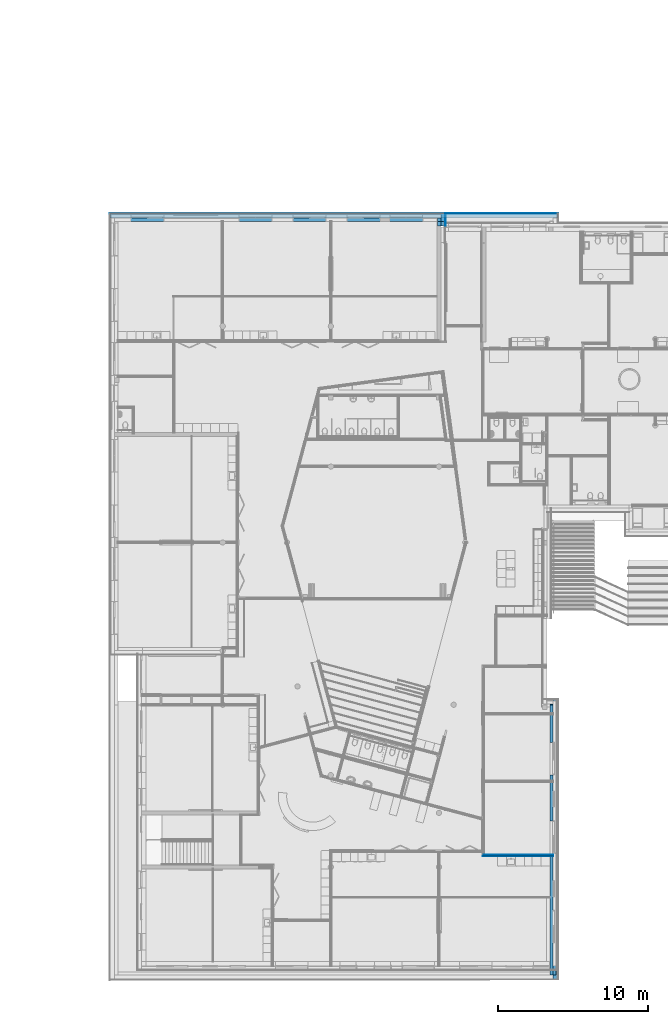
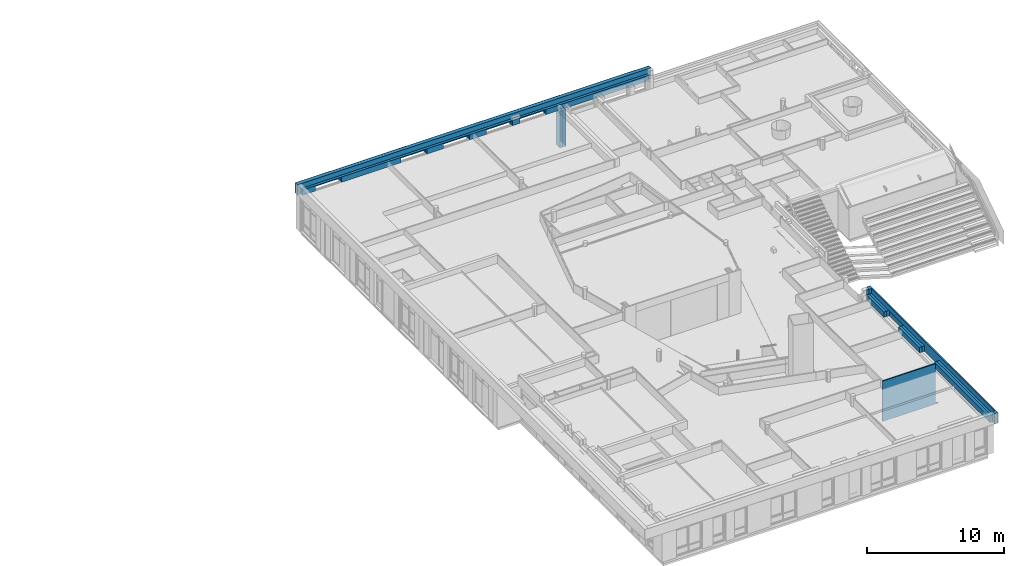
# One storey, part 66 of 167: 11 building element parts, 7 openings, 4 elements without a shape of their own.
"""IFC2X3 building model written with IfcOpenShell, lengths in millimetres."""

from ifc_helpers import new_model, entity, si_unit, converted_unit, derived_unit, money_unit, direction, frame, origin_with_axes, place, context, subcontext, project, spatial, faceted_brep, material, type_object, element, aggregate, save


model = new_model("IFC2X3")

# Units and contexts
model_context = context("Model", 3, precision=0.01, world=origin_with_axes(), true_north=direction((0.0, 1.0)))
plan_context = context("Plan", 3, precision=0.01, world=origin_with_axes(), true_north=direction((0.0, 1.0)))
body_context = subcontext(model_context, "Body", "Model", "MODEL_VIEW")
ifc_project = project(units=[si_unit("LENGTHUNIT", "METRE", prefix="MILLI"), si_unit("AREAUNIT", "SQUARE_METRE"), si_unit("VOLUMEUNIT", "CUBIC_METRE"), converted_unit("PLANEANGLEUNIT", "DEGREE", entity("IfcPlaneAngleMeasure", 0.0174532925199), si_unit("PLANEANGLEUNIT", "RADIAN"), dimensions=[0, 0, 0, 0, 0, 0, 0]), si_unit("SOLIDANGLEUNIT", "STERADIAN"), money_unit("EUR"), converted_unit("TIMEUNIT", "Year", entity("IfcTimeMeasure", 31556926.0), si_unit("TIMEUNIT", "SECOND"), dimensions=[0, 0, 1, 0, 0, 0, 0]), si_unit("MASSUNIT", "GRAM", prefix="KILO"), si_unit("THERMODYNAMICTEMPERATUREUNIT", "DEGREE_CELSIUS"), si_unit("LUMINOUSINTENSITYUNIT", "LUMEN"), si_unit("ENERGYUNIT", "JOULE", prefix="MEGA"), derived_unit("THERMALCONDUCTANCEUNIT", [(si_unit("POWERUNIT", "WATT"), 1), (si_unit("LENGTHUNIT", "METRE"), -1), (si_unit("THERMODYNAMICTEMPERATUREUNIT", "KELVIN"), -1)]), derived_unit("SPECIFICHEATCAPACITYUNIT", [(si_unit("ENERGYUNIT", "JOULE"), 1), (si_unit("MASSUNIT", "GRAM", prefix="KILO"), -1), (si_unit("THERMODYNAMICTEMPERATUREUNIT", "KELVIN"), -1)]), derived_unit("MASSDENSITYUNIT", [(si_unit("MASSUNIT", "GRAM", prefix="KILO"), 1), (si_unit("VOLUMEUNIT", "CUBIC_METRE"), -1)])], contexts=[model_context, plan_context])

# Site, building, storey
site_placement = place(None, origin_with_axes())
site = spatial("IfcSite", under=ifc_project, at=site_placement, Name="Site", CompositionType="ELEMENT")
building_placement = place(site_placement, origin_with_axes())
building = spatial("IfcBuilding", under=site, at=building_placement, Name="Naam gebouw", CompositionType="ELEMENT")
storey_placement = place(building_placement, origin_with_axes())
storey = spatial("IfcBuildingStorey", under=building, at=storey_placement, Name="Begane grond", CompositionType="ELEMENT", Elevation=0.0)

# Wall, building element parts
wall_type_1 = type_object("IfcWallType", Name="_TenW_21_E-BOARD_V1_standaard 538", PredefinedType="NOTDEFINED")
wall_1_placement = place(storey_placement, frame((21725.0, 49882.6405143, -100.0), z_axis=(0.0, 0.0, 1.0), x_axis=(0.0, 1.0, 0.0)))
wall_1 = element("IfcWall", 1, at=wall_1_placement, inside=storey, type_object=wall_type_1, Name="21_Wand_Wand-x")
ifc_material_1 = material(Name="Steen - Kalkzandsteen C")
building_element_part_1_placement = place(wall_1_placement, origin_with_axes())
building_element_part_1 = element("IfcBuildingElementPart", 2, at=building_element_part_1_placement, material=ifc_material_1, Name="Steen - Kalkzandsteen C", context=body_context, shape_type="Brep", body=[
    faceted_brep([(517.359485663, 125.0, 30.0), (517.359485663, 214.0, 30.0), (517.359485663, 214.0, 3150.0), (517.359485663, 0.0, 3150.0), (517.359485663, 0.0, 0.0), (517.359485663, 125.0, 0.0), (0.0, 125.0, 30.0), (0.0, 214.0, 30.0), (0.0, 214.0, 3272.0), (303.359485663, 214.0, 3272.0), (303.359485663, 214.0, 3150.0), (303.359485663, 0.0, 3150.0), (303.359485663, 0.0, 3272.0), (0.0, 0.0, 3272.0), (0.0, 0.0, 0.0), (0.0, 125.0, 0.0)], [[[0, 1, 2, 3, 4, 5]], [[1, 0, 6, 7]], [[1, 7, 8, 9, 10, 2]], [[10, 11, 3, 2]], [[3, 11, 12, 13, 14, 4]], [[15, 5, 4, 14]], [[0, 5, 15, 6]], [[6, 15, 14, 13, 8, 7]], [[13, 12, 9, 8]], [[10, 9, 12, 11]]]),
])
ifc_material_2 = material(Name="Isolatie - Steenwol zacht")
building_element_part_2_placement = place(wall_1_placement, origin_with_axes())
building_element_part_2 = element("IfcBuildingElementPart", 3, at=building_element_part_2_placement, material=ifc_material_2, Name="Isolatie - Steenwol zacht", context=body_context, shape_type="Brep", body=[
    faceted_brep([(781.359485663, -304.0, 3150.0), (781.359485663, 0.0, 3150.0), (303.359485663, 0.0, 3150.0), (303.359485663, -304.0, 3150.0), (781.359485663, 0.0, 0.0), (781.359485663, -304.0, 0.0), (303.359485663, 0.0, 3272.0), (0.0, 0.0, 0.0), (0.0, 0.0, 3272.0), (303.359485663, -304.0, 3272.0), (0.0, -304.0, 3272.0), (0.0, -304.0, 0.0)], [[[0, 1, 2, 3]], [[4, 1, 0, 5]], [[6, 2, 1, 4, 7, 8]], [[2, 6, 9, 3]], [[0, 3, 9, 10, 11, 5]], [[7, 4, 5, 11]], [[11, 10, 8, 7]], [[10, 9, 6, 8]]]),
])
ifc_material_3 = material(Name="_TenW_21_Steen - Baksteen")
building_element_part_3_placement = place(wall_1_placement, origin_with_axes())
building_element_part_3 = element("IfcBuildingElementPart", 4, at=building_element_part_3_placement, material=ifc_material_3, Name="_TenW_21_Steen - Baksteen", context=body_context, shape_type="Brep", body=[
    faceted_brep([(801.359485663, -324.0, 3150.0), (801.359485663, -304.0, 3150.0), (303.359485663, -304.0, 3150.0), (303.359485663, -324.0, 3150.0), (801.359485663, -304.0, 0.0), (801.359485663, -324.0, 0.0), (303.359485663, -304.0, 3272.0), (0.0, -304.0, 0.0), (0.0, -304.0, 3272.0), (303.359485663, -324.0, 3272.0), (0.0, -324.0, 3272.0), (0.0, -324.0, 0.0)], [[[0, 1, 2, 3]], [[4, 1, 0, 5]], [[6, 2, 1, 4, 7, 8]], [[2, 6, 9, 3]], [[0, 3, 9, 10, 11, 5]], [[11, 7, 4, 5]], [[11, 10, 8, 7]], [[10, 9, 6, 8]]]),
])
aggregate(wall_1, [building_element_part_1, building_element_part_2, building_element_part_3])

wall_type_2 = type_object("IfcWallType", Name="_TenW_22_Metalstud 100 enkel gipsvezelplaat 100", PredefinedType="NOTDEFINED")
wall_2_placement = place(storey_placement, frame((29200.0, 7950.0, -100.0), z_axis=(0.0, 0.0, 1.0), x_axis=(-1.0, 0.0, 0.0)))
wall_2 = element("IfcWall", 5, at=wall_2_placement, inside=storey, type_object=wall_type_2, Name="22_Wand_Wand-x")
ifc_material_4 = material(Name="Gipsplaat watervast")
building_element_part_4_placement = place(wall_2_placement, origin_with_axes())
building_element_part_4 = element("IfcBuildingElementPart", 6, at=building_element_part_4_placement, material=ifc_material_4, Name="Gipsplaat watervast", context=body_context, shape_type="Brep", body=[
    faceted_brep([(0.0, 50.0, 30.0), (0.0, 37.5, 30.0), (0.0, 37.5, 100.0), (0.0, 50.0, 100.0), (4700.0, 37.5, 30.0), (4700.0, 50.0, 30.0), (4700.0, 37.5, 3629.99999995), (214.0, 37.5, 3630.0), (214.0, 37.5, 100.0), (214.0, 50.0, 100.0), (214.0, 50.0, 3630.0), (4700.0, 50.0, 3629.99999995)], [[[0, 1, 2, 3]], [[4, 1, 0, 5]], [[1, 4, 6, 7, 8, 2]], [[9, 3, 2, 8]], [[5, 0, 3, 9, 10, 11]], [[4, 5, 11, 6]], [[11, 10, 7, 6]], [[8, 7, 10, 9]]]),
])
building_element_part_5_placement = place(wall_2_placement, origin_with_axes())
building_element_part_5 = element("IfcBuildingElementPart", 7, at=building_element_part_5_placement, material=ifc_material_2, Name="Isolatie - Steenwol zacht", context=body_context, shape_type="Brep", body=[
    faceted_brep([(0.0, 37.5, 30.0), (0.0, -37.5, 30.0), (0.0, -37.5, 100.0), (0.0, 37.5, 100.0), (4687.5, -37.5, 30.0), (4687.5, 37.5, 30.0), (4687.5, -37.5, 3629.99999995), (214.0, -37.5, 3630.0), (214.0, -37.5, 100.0), (214.0, 37.5, 100.0), (214.0, 37.5, 3630.0), (4687.5, 37.5, 3629.99999995)], [[[0, 1, 2, 3]], [[4, 1, 0, 5]], [[1, 4, 6, 7, 8, 2]], [[9, 3, 2, 8]], [[5, 0, 3, 9, 10, 11]], [[4, 5, 11, 6]], [[11, 10, 7, 6]], [[8, 7, 10, 9]]]),
])
building_element_part_6_placement = place(wall_2_placement, origin_with_axes())
building_element_part_6 = element("IfcBuildingElementPart", 8, at=building_element_part_6_placement, material=ifc_material_4, Name="Gipsplaat watervast", context=body_context, shape_type="Brep", body=[
    faceted_brep([(0.0, -37.5, 30.0), (0.0, -50.0, 30.0), (0.0, -50.0, 100.0), (0.0, -37.5, 100.0), (4612.5, -50.0, 30.0), (4612.5, -37.5, 30.0), (4612.5, -50.0, 3629.99999991), (214.0, -50.0, 3630.0), (214.0, -50.0, 100.0), (214.0, -37.5, 100.0), (214.0, -37.5, 3630.0), (4612.5, -37.5, 3629.99999991)], [[[0, 1, 2, 3]], [[4, 1, 0, 5]], [[1, 4, 6, 7, 8, 2]], [[9, 3, 2, 8]], [[5, 0, 3, 9, 10, 11]], [[4, 5, 11, 6]], [[11, 10, 7, 6]], [[8, 7, 10, 9]]]),
])
aggregate(wall_2, [building_element_part_4, building_element_part_5, building_element_part_6])

# Wall, openings, building element parts
wall_3_placement = place(storey_placement, frame((29200.0, 0.0, 3050.0), z_axis=(0.0, 0.0, 1.0), x_axis=(0.0, 1.0, 0.0)))
wall_3 = element("IfcWall", 9, at=wall_3_placement, inside=storey, type_object=wall_type_1, Name="21_Wand_Wand-x")
opening_1_placement = place(wall_3_placement, frame((0.0, 29200.0, -3050.0), z_axis=(0.0, 0.0, 1.0), x_axis=(0.0, -1.0, 0.0)))
element("IfcOpeningElement", 10, at=opening_1_placement, cuts=wall_3, Name="_Lege opening_Doorvoer-x", context=body_context, shape_type="Brep", body=[
    faceted_brep([(29400.0, 8111.53471311, 3050.0), (29400.0, 8111.53471311, 3530.0), (28986.0, 8111.53471311, 3530.0), (28986.0, 8111.53471311, 3050.0), (29400.0, 10271.4347131, 3050.0), (29400.0, 10271.4347131, 3530.0), (28986.0, 10271.4347131, 3530.0), (28986.0, 10271.4347131, 3050.0)], [[[0, 1, 2, 3]], [[0, 4, 5, 1]], [[1, 5, 6, 2]], [[3, 2, 6, 7]], [[4, 0, 3, 7]], [[5, 4, 7, 6]]]),
])
opening_2_placement = place(wall_3_placement, frame((0.0, 29200.0, -3050.0), z_axis=(0.0, 0.0, 1.0), x_axis=(0.0, -1.0, 0.0)))
element("IfcOpeningElement", 11, at=opening_2_placement, cuts=wall_3, Name="_Lege opening_Doorvoer-x", context=body_context, shape_type="Brep", body=[
    faceted_brep([(29456.0, 13320.0149885, 3050.0), (29456.0, 13320.0149885, 3530.0), (28986.0, 13320.0149885, 3530.0), (28986.0, 13320.0149885, 3050.0), (29456.0, 15479.9149885, 3050.0), (29456.0, 15479.9149885, 3530.0), (28986.0, 15479.9149885, 3530.0), (28986.0, 15479.9149885, 3050.0)], [[[0, 1, 2, 3]], [[0, 4, 5, 1]], [[1, 5, 6, 2]], [[3, 2, 6, 7]], [[4, 0, 3, 7]], [[5, 4, 7, 6]]]),
])
building_element_part_7_placement = place(wall_3_placement, origin_with_axes())
building_element_part_7 = element("IfcBuildingElementPart", 12, at=building_element_part_7_placement, material=ifc_material_1, Name="Steen - Kalkzandsteen C", context=body_context, shape_type="Brep", body=[
    faceted_brep([(8081.43471311, 0.0, 0.0), (8081.43471311, 0.0, 10.0), (8111.53471311, 0.0, 10.0), (8111.53471311, 0.0, 480.0), (0.0, 0.0, 480.0), (0.0, 0.0, 0.0), (8081.43471311, 196.0, 0.0), (8081.43471311, 196.0, 10.0), (8111.53471311, 196.0, 10.0), (8111.53471311, 196.0, 0.0), (8111.53471311, 214.0, 0.0), (8111.53471311, 214.0, 480.0), (0.0, 214.0, 480.0), (0.0, 214.0, 0.0)], [[[0, 1, 2, 3, 4, 5]], [[1, 0, 6, 7]], [[8, 2, 1, 7]], [[8, 9, 10, 11, 3, 2]], [[4, 3, 11, 12]], [[4, 12, 13, 5]], [[6, 0, 5, 13, 10, 9]], [[9, 8, 7, 6]], [[12, 11, 10, 13]]]),
    faceted_brep([(13289.9048508, 0.0, 0.0), (13289.9048508, 0.0, 10.0), (13320.0149885, 0.0, 10.0), (13320.0149885, 0.0, 480.0), (10271.4347131, 0.0, 480.0), (10271.4347131, 0.0, 0.0), (13289.9048508, 196.0, 0.0), (13289.9048508, 196.0, 10.0), (13320.0149885, 196.0, 10.0), (13320.0149885, 196.0, 0.0), (13320.0149885, 214.0, 0.0), (13320.0149885, 214.0, 480.0), (10271.4347131, 214.0, 480.0), (10271.4347131, 214.0, 0.0)], [[[0, 1, 2, 3, 4, 5]], [[1, 0, 6, 7]], [[8, 2, 1, 7]], [[8, 9, 10, 11, 3, 2]], [[4, 3, 11, 12]], [[4, 12, 13, 5]], [[6, 0, 5, 13, 10, 9]], [[9, 8, 7, 6]], [[12, 11, 10, 13]]]),
    faceted_brep([(18000.0, 214.0, 910.0), (18000.0, 214.0, 480.0), (18000.0, 0.0, 480.0), (18000.0, 0.0, 910.0), (18050.0, 214.0, 910.0), (18050.0, 214.0, 0.0), (15479.9149885, 214.0, 0.0), (15479.9149885, 214.0, 480.0), (15479.9149885, 0.0, 480.0), (15479.9149885, 0.0, 0.0), (18050.0, 0.0, 0.0), (18050.0, 0.0, 910.0)], [[[0, 1, 2, 3]], [[1, 0, 4, 5, 6, 7]], [[8, 2, 1, 7]], [[2, 8, 9, 10, 11, 3]], [[0, 3, 11, 4]], [[4, 11, 10, 5]], [[5, 10, 9, 6]], [[8, 7, 6, 9]]]),
])
building_element_part_8_placement = place(wall_3_placement, origin_with_axes())
building_element_part_8 = element("IfcBuildingElementPart", 13, at=building_element_part_8_placement, material=ifc_material_2, Name="Isolatie - Steenwol zacht", context=body_context, shape_type="Brep", body=[
    faceted_brep([(8111.53471311, -3.66471820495, 10.0), (8111.53471311, 0.0, 10.0), (8111.53471311, 0.0, 480.0), (8111.53471311, -200.0, 480.0), (8111.53471311, -200.0, 0.0), (8111.53471311, -3.66471820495, 0.0), (8111.53471311, -16.0, 80.0), (8111.53471311, -176.0, 80.0), (8111.53471311, -176.0, 90.0), (8111.53471311, -16.0, 90.0), (8081.43471311, -3.66471820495, 10.0), (8081.43471311, 0.0, 10.0), (8081.43471311, 0.0, 0.0), (-304.0, 0.0, 0.0), (-304.0, 0.0, 910.0), (0.0, 0.0, 910.0), (0.0, 0.0, 480.0), (0.0, -200.0, 480.0), (10271.4347131, -200.0, 480.0), (10271.4347131, -200.0, 0.0), (8081.43471311, -3.66471820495, 0.0), (10271.4347131, 0.0, 0.0), (13289.9048508, 0.0, 0.0), (13289.9048508, -3.66471820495, 0.0), (13320.0149885, -3.66471820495, 0.0), (13320.0149885, -256.0, 0.0), (15479.9149885, -256.0, 0.0), (15479.9149885, 0.0, 0.0), (18354.0, 0.0, 0.0), (18354.0, -304.0, 0.0), (-304.0, -304.0, 0.0), (8081.43471311, -16.0, 80.0), (8081.43471311, -176.0, 80.0), (8081.43471311, -176.0, 90.0), (8081.43471311, -16.0, 90.0), (-304.0, -304.0, 910.0), (0.0, -200.0, 910.0), (18354.0, -304.0, 910.0), (18354.0, 0.0, 910.0), (18000.0, 0.0, 910.0), (18000.0, -200.0, 910.0), (18000.0, -200.0, 480.0), (15479.9149885, -200.0, 480.0), (13320.0149885, -200.0, 480.0), (10271.4347131, 0.0, 480.0), (13289.9048508, 0.0, 10.0), (13320.0149885, 0.0, 480.0), (13320.0149885, 0.0, 10.0), (13289.9048508, -3.66471820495, 10.0), (13320.0149885, -3.66471820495, 10.0), (13320.0149885, -256.0, 480.0), (13320.0149885, -16.0, 80.0), (13320.0149885, -176.0, 80.0), (13320.0149885, -176.0, 90.0), (13320.0149885, -16.0, 90.0), (15479.9149885, -256.0, 480.0), (15479.9149885, 0.0, 480.0), (18000.0, 0.0, 480.0), (13289.9048508, -16.0, 80.0), (13289.9048508, -176.0, 80.0), (13289.9048508, -176.0, 90.0), (13289.9048508, -16.0, 90.0)], [[[0, 1, 2, 3, 4, 5], [6, 7, 8, 9]], [[1, 0, 10, 11]], [[11, 12, 13, 14, 15, 16, 2, 1]], [[3, 2, 16, 17]], [[3, 18, 19, 4]], [[20, 5, 4, 19, 21, 22, 23, 24, 25, 26, 27, 28, 29, 30, 13, 12]], [[0, 5, 20, 10]], [[7, 6, 31, 32]], [[8, 7, 32, 33]], [[9, 8, 33, 34]], [[6, 9, 34, 31]], [[20, 12, 11, 10]], [[14, 13, 30, 35]], [[36, 15, 14, 35, 37, 38, 39, 40]], [[17, 16, 15, 36]], [[40, 41, 42, 43, 18, 3, 17, 36]], [[18, 44, 21, 19]], [[45, 22, 21, 44, 46, 47]], [[23, 22, 45, 48]], [[49, 24, 23, 48]], [[49, 47, 46, 43, 50, 25, 24], [51, 52, 53, 54]], [[50, 55, 26, 25]], [[42, 56, 27, 26, 55]], [[57, 39, 38, 28, 27, 56]], [[37, 29, 28, 38]], [[30, 29, 37, 35]], [[31, 34, 33, 32]], [[39, 57, 41, 40]], [[56, 42, 41, 57]], [[43, 42, 55, 50]], [[43, 46, 44, 18]], [[47, 49, 48, 45]], [[52, 51, 58, 59]], [[53, 52, 59, 60]], [[54, 53, 60, 61]], [[51, 54, 61, 58]], [[58, 61, 60, 59]]]),
])
aggregate(wall_3, [building_element_part_7, building_element_part_8])

wall_4_placement = place(storey_placement, frame((29200.0, 50400.0, 3050.0), z_axis=(0.0, 0.0, 1.0), x_axis=(-1.0, 0.0, 0.0)))
wall_4 = element("IfcWall", 14, at=wall_4_placement, inside=storey, type_object=wall_type_1, Name="21_Wand_Wand-x")
opening_3_placement = place(wall_4_placement, frame((29200.0, 50400.0, -3050.0), z_axis=(0.0, 0.0, 1.0), x_axis=(-1.0, 0.0, 0.0)))
element("IfcOpeningElement", 15, at=opening_3_placement, cuts=wall_4, Name="_Lege opening_Doorvoer-x", context=body_context, shape_type="Brep", body=[
    faceted_brep([(3276.46405593, 50674.0, 3046.32237764), (3276.46405593, 50674.0, 3506.32237764), (3276.46405593, 49648.0, 3506.32237764), (3276.46405593, 49648.0, 3046.32237764), (1086.46405593, 50674.0, 3046.32237764), (1086.46405593, 50674.0, 3506.32237764), (1086.46405593, 49648.0, 3506.32237764), (1086.46405593, 49648.0, 3046.32237764)], [[[0, 1, 2, 3]], [[0, 4, 5, 1]], [[1, 5, 6, 2]], [[3, 2, 6, 7]], [[4, 0, 3, 7]], [[5, 4, 7, 6]]]),
])
opening_4_placement = place(wall_4_placement, frame((29200.0, 50400.0, -3050.0), z_axis=(0.0, 0.0, 1.0), x_axis=(-1.0, 0.0, 0.0)))
element("IfcOpeningElement", 16, at=opening_4_placement, cuts=wall_4, Name="_Lege opening_Doorvoer-x", context=body_context, shape_type="Brep", body=[
    faceted_brep([(10477.0640559, 50674.0, 3046.32237764), (10477.0640559, 50674.0, 3506.32237764), (10477.0640559, 49648.0, 3506.32237764), (10477.0640559, 49648.0, 3046.32237764), (8287.06405593, 50674.0, 3046.32237764), (8287.06405593, 50674.0, 3506.32237764), (8287.06405593, 49648.0, 3506.32237764), (8287.06405593, 49648.0, 3046.32237764)], [[[0, 1, 2, 3]], [[0, 4, 5, 1]], [[1, 5, 6, 2]], [[3, 2, 6, 7]], [[4, 0, 3, 7]], [[5, 4, 7, 6]]]),
])
opening_5_placement = place(wall_4_placement, frame((29200.0, 50400.0, -3050.0), z_axis=(0.0, 0.0, 1.0), x_axis=(-1.0, 0.0, 0.0)))
element("IfcOpeningElement", 17, at=opening_5_placement, cuts=wall_4, Name="_Lege opening_Doorvoer-x", context=body_context, shape_type="Brep", body=[
    faceted_brep([(14077.3640559, 50674.0, 3046.32237764), (14077.3640559, 50674.0, 3506.32237764), (14077.3640559, 49648.0, 3506.32237764), (14077.3640559, 49648.0, 3046.32237764), (11887.3640559, 50674.0, 3046.32237764), (11887.3640559, 50674.0, 3506.32237764), (11887.3640559, 49648.0, 3506.32237764), (11887.3640559, 49648.0, 3046.32237764)], [[[0, 1, 2, 3]], [[0, 4, 5, 1]], [[1, 5, 6, 2]], [[3, 2, 6, 7]], [[4, 0, 3, 7]], [[5, 4, 7, 6]]]),
])
opening_6_placement = place(wall_4_placement, frame((29200.0, 50400.0, -3050.0), z_axis=(0.0, 0.0, 1.0), x_axis=(-1.0, 0.0, 0.0)))
element("IfcOpeningElement", 18, at=opening_6_placement, cuts=wall_4, Name="_Lege opening_Doorvoer-x", context=body_context, shape_type="Brep", body=[
    faceted_brep([(17677.6640559, 50674.0, 3046.32237764), (17677.6640559, 50674.0, 3506.32237764), (17677.6640559, 49648.0, 3506.32237764), (17677.6640559, 49648.0, 3046.32237764), (15487.6640559, 50674.0, 3046.32237764), (15487.6640559, 50674.0, 3506.32237764), (15487.6640559, 49648.0, 3506.32237764), (15487.6640559, 49648.0, 3046.32237764)], [[[0, 1, 2, 3]], [[0, 4, 5, 1]], [[1, 5, 6, 2]], [[3, 2, 6, 7]], [[4, 0, 3, 7]], [[5, 4, 7, 6]]]),
])
opening_7_placement = place(wall_4_placement, frame((29200.0, 50400.0, -3050.0), z_axis=(0.0, 0.0, 1.0), x_axis=(-1.0, 0.0, 0.0)))
element("IfcOpeningElement", 19, at=opening_7_placement, cuts=wall_4, Name="_Lege opening_Doorvoer-x", context=body_context, shape_type="Brep", body=[
    faceted_brep([(20514.2640559, 50674.0, 3046.32237764), (20514.2640559, 50674.0, 3506.32237764), (20514.2640559, 49648.0, 3506.32237764), (20514.2640559, 49648.0, 3046.32237764), (18324.2640559, 50674.0, 3046.32237764), (18324.2640559, 50674.0, 3506.32237764), (18324.2640559, 49648.0, 3506.32237764), (18324.2640559, 49648.0, 3046.32237764)], [[[0, 1, 2, 3]], [[0, 4, 5, 1]], [[1, 5, 6, 2]], [[3, 2, 6, 7]], [[4, 0, 3, 7]], [[5, 4, 7, 6]]]),
])
building_element_part_9_placement = place(wall_4_placement, origin_with_axes())
building_element_part_9 = element("IfcBuildingElementPart", 20, at=building_element_part_9_placement, material=ifc_material_1, Name="Steen - Kalkzandsteen C", context=body_context, shape_type="Brep", body=[
    faceted_brep([(29200.0, 0.0, 480.0), (0.0, 0.0, 480.0), (0.0, 0.0, 0.0), (8685.73594407, 0.0, 0.0), (8685.73594407, 0.0, 456.322377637), (9025.42131354, 0.0, 456.322377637), (9025.42131354, 0.0, 460.0), (9030.42131354, 0.0, 460.0), (9030.42131354, 0.0, 456.322377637), (10525.4213135, 0.0, 456.322377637), (10525.4213135, 0.0, 460.0), (10530.4213135, 0.0, 460.0), (10530.4213135, 0.0, 456.322377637), (10875.7359441, 0.0, 456.322377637), (10875.7359441, 0.0, 0.0), (11522.3359441, 0.0, 0.0), (11522.3359441, 0.0, 456.322377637), (11862.0213135, 0.0, 456.322377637), (11862.0213135, 0.0, 460.0), (11867.0213135, 0.0, 460.0), (11867.0213135, 0.0, 456.322377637), (13362.0213135, 0.0, 456.322377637), (13362.0213135, 0.0, 460.0), (13367.0213135, 0.0, 460.0), (13367.0213135, 0.0, 456.322377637), (13712.3359441, 0.0, 456.322377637), (13712.3359441, 0.0, 0.0), (15122.6359441, 0.0, 0.0), (15122.6359441, 0.0, 456.322377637), (15462.3213135, 0.0, 456.322377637), (15462.3213135, 0.0, 460.0), (15467.3213135, 0.0, 460.0), (15467.3213135, 0.0, 456.322377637), (16962.3213135, 0.0, 456.322377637), (16962.3213135, 0.0, 460.0), (16967.3213135, 0.0, 460.0), (16967.3213135, 0.0, 456.322377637), (17312.6359441, 0.0, 456.322377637), (17312.6359441, 0.0, 0.0), (18722.9359441, 0.0, 0.0), (18722.9359441, 0.0, 456.322377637), (19062.6213135, 0.0, 456.322377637), (19062.6213135, 0.0, 460.0), (19067.6213135, 0.0, 460.0), (19067.6213135, 0.0, 456.322377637), (20562.6213135, 0.0, 456.322377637), (20562.6213135, 0.0, 460.0), (20567.6213135, 0.0, 460.0), (20567.6213135, 0.0, 456.322377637), (20912.9359441, 0.0, 456.322377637), (20912.9359441, 0.0, 0.0), (25923.5359441, 0.0, 0.0), (25923.5359441, 0.0, 456.322377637), (26263.2213135, 0.0, 456.322377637), (26263.2213135, 0.0, 460.0), (26268.2213135, 0.0, 460.0), (26268.2213135, 0.0, 456.322377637), (27763.2213135, 0.0, 456.322377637), (27763.2213135, 0.0, 460.0), (27768.2213135, 0.0, 460.0), (27768.2213135, 0.0, 456.322377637), (28113.5359441, 0.0, 456.322377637), (28113.5359441, 0.0, 0.0), (29200.0, 0.0, 0.0), (0.0, 214.0, 480.0), (29200.0, 214.0, 480.0), (0.0, 214.0, 0.0), (8685.73594407, 214.0, 0.0), (8685.73594407, 214.0, 456.322377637), (9025.42131354, 214.0, 456.322377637), (9025.42131354, 214.0, 460.0), (9030.42131354, 214.0, 460.0), (9030.42131354, 214.0, 456.322377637), (10525.4213135, 214.0, 456.322377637), (10525.4213135, 214.0, 460.0), (10530.4213135, 214.0, 460.0), (10530.4213135, 214.0, 456.322377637), (10875.7359441, 214.0, 456.322377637), (10875.7359441, 214.0, 0.0), (11522.3359441, 214.0, 0.0), (11522.3359441, 214.0, 456.322377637), (11862.0213135, 214.0, 456.322377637), (11862.0213135, 214.0, 460.0), (11867.0213135, 214.0, 460.0), (11867.0213135, 214.0, 456.322377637), (13362.0213135, 214.0, 456.322377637), (13362.0213135, 214.0, 460.0), (13367.0213135, 214.0, 460.0), (13367.0213135, 214.0, 456.322377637), (13712.3359441, 214.0, 456.322377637), (13712.3359441, 214.0, 0.0), (15122.6359441, 214.0, 0.0), (15122.6359441, 214.0, 456.322377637), (15462.3213135, 214.0, 456.322377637), (15462.3213135, 214.0, 460.0), (15467.3213135, 214.0, 460.0), (15467.3213135, 214.0, 456.322377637), (16962.3213135, 214.0, 456.322377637), (16962.3213135, 214.0, 460.0), (16967.3213135, 214.0, 460.0), (16967.3213135, 214.0, 456.322377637), (17312.6359441, 214.0, 456.322377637), (17312.6359441, 214.0, 0.0), (18722.9359441, 214.0, 0.0), (18722.9359441, 214.0, 456.322377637), (19062.6213135, 214.0, 456.322377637), (19062.6213135, 214.0, 460.0), (19067.6213135, 214.0, 460.0), (19067.6213135, 214.0, 456.322377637), (20562.6213135, 214.0, 456.322377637), (20562.6213135, 214.0, 460.0), (20567.6213135, 214.0, 460.0), (20567.6213135, 214.0, 456.322377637), (20912.9359441, 214.0, 456.322377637), (20912.9359441, 214.0, 0.0), (25923.5359441, 214.0, 0.0), (25923.5359441, 214.0, 456.322377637), (26263.2213135, 214.0, 456.322377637), (26263.2213135, 214.0, 460.0), (26268.2213135, 214.0, 460.0), (26268.2213135, 214.0, 456.322377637), (27763.2213135, 214.0, 456.322377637), (27763.2213135, 214.0, 460.0), (27768.2213135, 214.0, 460.0), (27768.2213135, 214.0, 456.322377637), (28113.5359441, 214.0, 456.322377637), (28113.5359441, 214.0, 0.0), (29200.0, 214.0, 0.0)], [[[0, 1, 2, 3, 4, 5, 6, 7, 8, 9, 10, 11, 12, 13, 14, 15, 16, 17, 18, 19, 20, 21, 22, 23, 24, 25, 26, 27, 28, 29, 30, 31, 32, 33, 34, 35, 36, 37, 38, 39, 40, 41, 42, 43, 44, 45, 46, 47, 48, 49, 50, 51, 52, 53, 54, 55, 56, 57, 58, 59, 60, 61, 62, 63]], [[64, 1, 0, 65]], [[1, 64, 66, 2]], [[2, 66, 67, 3]], [[67, 68, 4, 3]], [[68, 69, 5, 4]], [[70, 6, 5, 69]], [[71, 7, 6, 70]], [[72, 8, 7, 71]], [[9, 8, 72, 73]], [[74, 10, 9, 73]], [[75, 11, 10, 74]], [[76, 12, 11, 75]], [[13, 12, 76, 77]], [[77, 78, 14, 13]], [[79, 15, 14, 78]], [[79, 80, 16, 15]], [[80, 81, 17, 16]], [[82, 18, 17, 81]], [[83, 19, 18, 82]], [[84, 20, 19, 83]], [[21, 20, 84, 85]], [[86, 22, 21, 85]], [[87, 23, 22, 86]], [[88, 24, 23, 87]], [[25, 24, 88, 89]], [[89, 90, 26, 25]], [[91, 27, 26, 90]], [[91, 92, 28, 27]], [[92, 93, 29, 28]], [[94, 30, 29, 93]], [[95, 31, 30, 94]], [[96, 32, 31, 95]], [[33, 32, 96, 97]], [[98, 34, 33, 97]], [[99, 35, 34, 98]], [[100, 36, 35, 99]], [[37, 36, 100, 101]], [[101, 102, 38, 37]], [[103, 39, 38, 102]], [[103, 104, 40, 39]], [[104, 105, 41, 40]], [[106, 42, 41, 105]], [[107, 43, 42, 106]], [[108, 44, 43, 107]], [[45, 44, 108, 109]], [[110, 46, 45, 109]], [[111, 47, 46, 110]], [[112, 48, 47, 111]], [[49, 48, 112, 113]], [[113, 114, 50, 49]], [[115, 51, 50, 114]], [[115, 116, 52, 51]], [[116, 117, 53, 52]], [[118, 54, 53, 117]], [[119, 55, 54, 118]], [[120, 56, 55, 119]], [[57, 56, 120, 121]], [[122, 58, 57, 121]], [[123, 59, 58, 122]], [[124, 60, 59, 123]], [[61, 60, 124, 125]], [[125, 126, 62, 61]], [[126, 127, 63, 62]], [[65, 0, 63, 127]], [[64, 65, 127, 126, 125, 124, 123, 122, 121, 120, 119, 118, 117, 116, 115, 114, 113, 112, 111, 110, 109, 108, 107, 106, 105, 104, 103, 102, 101, 100, 99, 98, 97, 96, 95, 94, 93, 92, 91, 90, 89, 88, 87, 86, 85, 84, 83, 82, 81, 80, 79, 78, 77, 76, 75, 74, 73, 72, 71, 70, 69, 68, 67, 66]]]),
])
building_element_part_10_placement = place(wall_4_placement, origin_with_axes())
building_element_part_10 = element("IfcBuildingElementPart", 21, at=building_element_part_10_placement, material=ifc_material_2, Name="Isolatie - Steenwol zacht", context=body_context, shape_type="Brep", body=[
    faceted_brep([(9025.42131354, -16.0, 456.322377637), (9030.42131354, -16.0, 456.322377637), (9030.42131354, 0.0, 456.322377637), (10525.4213135, 0.0, 456.322377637), (10525.4213135, -116.0, 456.322377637), (10530.4213135, -116.0, 456.322377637), (10530.4213135, 0.0, 456.322377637), (10875.7359441, 0.0, 456.322377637), (10875.7359441, -274.0, 456.322377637), (8685.73594407, -274.0, 456.322377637), (8685.73594407, 0.0, 456.322377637), (9025.42131354, 0.0, 456.322377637), (9030.42131354, -16.0, 460.0), (9025.42131354, -16.0, 460.0), (9030.42131354, 0.0, 460.0), (9025.42131354, 0.0, 460.0), (8685.73594407, 0.0, 0.0), (-304.0, 0.0, 0.0), (-304.0, 0.0, 910.0), (29504.0, 0.0, 910.0), (29504.0, 0.0, 0.0), (28113.5359441, 0.0, 0.0), (28113.5359441, 0.0, 456.322377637), (27768.2213135, 0.0, 456.322377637), (27768.2213135, 0.0, 460.0), (27763.2213135, 0.0, 460.0), (27763.2213135, 0.0, 456.322377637), (26268.2213135, 0.0, 456.322377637), (26268.2213135, 0.0, 460.0), (26263.2213135, 0.0, 460.0), (26263.2213135, 0.0, 456.322377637), (25923.5359441, 0.0, 456.322377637), (25923.5359441, 0.0, 0.0), (20912.9359441, 0.0, 0.0), (20912.9359441, 0.0, 456.322377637), (20567.6213135, 0.0, 456.322377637), (20567.6213135, 0.0, 460.0), (20562.6213135, 0.0, 460.0), (20562.6213135, 0.0, 456.322377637), (19067.6213135, 0.0, 456.322377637), (19067.6213135, 0.0, 460.0), (19062.6213135, 0.0, 460.0), (19062.6213135, 0.0, 456.322377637), (18722.9359441, 0.0, 456.322377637), (18722.9359441, 0.0, 0.0), (17312.6359441, 0.0, 0.0), (17312.6359441, 0.0, 456.322377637), (16967.3213135, 0.0, 456.322377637), (16967.3213135, 0.0, 460.0), (16962.3213135, 0.0, 460.0), (16962.3213135, 0.0, 456.322377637), (15467.3213135, 0.0, 456.322377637), (15467.3213135, 0.0, 460.0), (15462.3213135, 0.0, 460.0), (15462.3213135, 0.0, 456.322377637), (15122.6359441, 0.0, 456.322377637), (15122.6359441, 0.0, 0.0), (13712.3359441, 0.0, 0.0), (13712.3359441, 0.0, 456.322377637), (13367.0213135, 0.0, 456.322377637), (13367.0213135, 0.0, 460.0), (13362.0213135, 0.0, 460.0), (13362.0213135, 0.0, 456.322377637), (11867.0213135, 0.0, 456.322377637), (11867.0213135, 0.0, 460.0), (11862.0213135, 0.0, 460.0), (11862.0213135, 0.0, 456.322377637), (11522.3359441, 0.0, 456.322377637), (11522.3359441, 0.0, 0.0), (10875.7359441, 0.0, 0.0), (10530.4213135, 0.0, 460.0), (10525.4213135, 0.0, 460.0), (10525.4213135, -116.0, 460.0), (10530.4213135, -116.0, 460.0), (10875.7359441, -274.0, 0.0), (8685.73594407, -274.0, 0.0), (29504.0, -304.0, 0.0), (-304.0, -304.0, 0.0), (11522.3359441, -274.0, 0.0), (13712.3359441, -274.0, 0.0), (15122.6359441, -274.0, 0.0), (17312.6359441, -274.0, 0.0), (18722.9359441, -274.0, 0.0), (20912.9359441, -274.0, 0.0), (25923.5359441, -274.0, 0.0), (28113.5359441, -274.0, 0.0), (-304.0, -304.0, 910.0), (29504.0, -304.0, 910.0), (28113.5359441, -274.0, 456.322377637), (26263.2213135, -16.0, 456.322377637), (26268.2213135, -16.0, 456.322377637), (27763.2213135, -116.0, 456.322377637), (27768.2213135, -116.0, 456.322377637), (25923.5359441, -274.0, 456.322377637), (27768.2213135, -116.0, 460.0), (27763.2213135, -116.0, 460.0), (26268.2213135, -16.0, 460.0), (26263.2213135, -16.0, 460.0), (20912.9359441, -274.0, 456.322377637), (19062.6213135, -16.0, 456.322377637), (19067.6213135, -16.0, 456.322377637), (20562.6213135, -116.0, 456.322377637), (20567.6213135, -116.0, 456.322377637), (18722.9359441, -274.0, 456.322377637), (20567.6213135, -116.0, 460.0), (20562.6213135, -116.0, 460.0), (19067.6213135, -16.0, 460.0), (19062.6213135, -16.0, 460.0), (17312.6359441, -274.0, 456.322377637), (15462.3213135, -16.0, 456.322377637), (15467.3213135, -16.0, 456.322377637), (16962.3213135, -116.0, 456.322377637), (16967.3213135, -116.0, 456.322377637), (15122.6359441, -274.0, 456.322377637), (16967.3213135, -116.0, 460.0), (16962.3213135, -116.0, 460.0), (15467.3213135, -16.0, 460.0), (15462.3213135, -16.0, 460.0), (13712.3359441, -274.0, 456.322377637), (11862.0213135, -16.0, 456.322377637), (11867.0213135, -16.0, 456.322377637), (13362.0213135, -116.0, 456.322377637), (13367.0213135, -116.0, 456.322377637), (11522.3359441, -274.0, 456.322377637), (13367.0213135, -116.0, 460.0), (13362.0213135, -116.0, 460.0), (11867.0213135, -16.0, 460.0), (11862.0213135, -16.0, 460.0)], [[[0, 1, 2, 3, 4, 5, 6, 7, 8, 9, 10, 11]], [[12, 1, 0, 13]], [[14, 2, 1, 12]], [[14, 15, 11, 10, 16, 17, 18, 19, 20, 21, 22, 23, 24, 25, 26, 27, 28, 29, 30, 31, 32, 33, 34, 35, 36, 37, 38, 39, 40, 41, 42, 43, 44, 45, 46, 47, 48, 49, 50, 51, 52, 53, 54, 55, 56, 57, 58, 59, 60, 61, 62, 63, 64, 65, 66, 67, 68, 69, 7, 6, 70, 71, 3, 2]], [[72, 4, 3, 71]], [[73, 5, 4, 72]], [[70, 6, 5, 73]], [[8, 7, 69, 74]], [[9, 8, 74, 75]], [[10, 9, 75, 16]], [[13, 0, 11, 15]], [[13, 15, 14, 12]], [[21, 20, 76, 77, 17, 16, 75, 74, 69, 68, 78, 79, 57, 56, 80, 81, 45, 44, 82, 83, 33, 32, 84, 85]], [[18, 17, 77, 86]], [[86, 87, 19, 18]], [[20, 19, 87, 76]], [[88, 22, 21, 85]], [[89, 90, 27, 26, 91, 92, 23, 22, 88, 93, 31, 30]], [[24, 23, 92, 94]], [[95, 25, 24, 94]], [[95, 91, 26, 25]], [[28, 27, 90, 96]], [[97, 29, 28, 96]], [[97, 89, 30, 29]], [[31, 93, 84, 32]], [[98, 34, 33, 83]], [[99, 100, 39, 38, 101, 102, 35, 34, 98, 103, 43, 42]], [[36, 35, 102, 104]], [[105, 37, 36, 104]], [[105, 101, 38, 37]], [[40, 39, 100, 106]], [[107, 41, 40, 106]], [[107, 99, 42, 41]], [[43, 103, 82, 44]], [[108, 46, 45, 81]], [[109, 110, 51, 50, 111, 112, 47, 46, 108, 113, 55, 54]], [[48, 47, 112, 114]], [[115, 49, 48, 114]], [[115, 111, 50, 49]], [[52, 51, 110, 116]], [[117, 53, 52, 116]], [[117, 109, 54, 53]], [[55, 113, 80, 56]], [[118, 58, 57, 79]], [[119, 120, 63, 62, 121, 122, 59, 58, 118, 123, 67, 66]], [[60, 59, 122, 124]], [[125, 61, 60, 124]], [[125, 121, 62, 61]], [[64, 63, 120, 126]], [[127, 65, 64, 126]], [[127, 119, 66, 65]], [[67, 123, 78, 68]], [[72, 71, 70, 73]], [[77, 76, 87, 86]], [[123, 118, 79, 78]], [[113, 108, 81, 80]], [[103, 98, 83, 82]], [[93, 88, 85, 84]], [[96, 90, 89, 97]], [[94, 92, 91, 95]], [[106, 100, 99, 107]], [[104, 102, 101, 105]], [[116, 110, 109, 117]], [[114, 112, 111, 115]], [[126, 120, 119, 127]], [[124, 122, 121, 125]]]),
    faceted_brep([(10857.7359441, -256.0, 490.0), (10857.7359441, -256.0, 500.0), (10857.7359441, -16.0, 500.0), (10857.7359441, -16.0, 490.0), (8685.73594407, -256.0, 490.0), (8685.73594407, -256.0, 500.0), (8685.73594407, -16.0, 500.0), (8685.73594407, -16.0, 490.0)], [[[0, 1, 2, 3]], [[4, 5, 1, 0]], [[1, 5, 6, 2]], [[3, 2, 6, 7]], [[0, 3, 7, 4]], [[7, 6, 5, 4]]]),
    faceted_brep([(13694.3359441, -256.0, 490.0), (13694.3359441, -256.0, 500.0), (13694.3359441, -16.0, 500.0), (13694.3359441, -16.0, 490.0), (11522.3359441, -256.0, 490.0), (11522.3359441, -256.0, 500.0), (11522.3359441, -16.0, 500.0), (11522.3359441, -16.0, 490.0)], [[[0, 1, 2, 3]], [[4, 5, 1, 0]], [[1, 5, 6, 2]], [[3, 2, 6, 7]], [[0, 3, 7, 4]], [[7, 6, 5, 4]]]),
    faceted_brep([(17294.6359441, -256.0, 490.0), (17294.6359441, -256.0, 500.0), (17294.6359441, -16.0, 500.0), (17294.6359441, -16.0, 490.0), (15122.6359441, -256.0, 490.0), (15122.6359441, -256.0, 500.0), (15122.6359441, -16.0, 500.0), (15122.6359441, -16.0, 490.0)], [[[0, 1, 2, 3]], [[4, 5, 1, 0]], [[1, 5, 6, 2]], [[3, 2, 6, 7]], [[0, 3, 7, 4]], [[7, 6, 5, 4]]]),
    faceted_brep([(20894.9359441, -256.0, 490.0), (20894.9359441, -256.0, 500.0), (20894.9359441, -16.0, 500.0), (20894.9359441, -16.0, 490.0), (18722.9359441, -256.0, 490.0), (18722.9359441, -256.0, 500.0), (18722.9359441, -16.0, 500.0), (18722.9359441, -16.0, 490.0)], [[[0, 1, 2, 3]], [[4, 5, 1, 0]], [[1, 5, 6, 2]], [[3, 2, 6, 7]], [[0, 3, 7, 4]], [[7, 6, 5, 4]]]),
    faceted_brep([(28095.5359441, -256.0, 490.0), (28095.5359441, -256.0, 500.0), (28095.5359441, -16.0, 500.0), (28095.5359441, -16.0, 490.0), (25923.5359441, -256.0, 490.0), (25923.5359441, -256.0, 500.0), (25923.5359441, -16.0, 500.0), (25923.5359441, -16.0, 490.0)], [[[0, 1, 2, 3]], [[4, 5, 1, 0]], [[1, 5, 6, 2]], [[3, 2, 6, 7]], [[0, 3, 7, 4]], [[7, 6, 5, 4]]]),
])
building_element_part_11_placement = place(wall_4_placement, origin_with_axes())
building_element_part_11 = element("IfcBuildingElementPart", 22, at=building_element_part_11_placement, material=ifc_material_3, Name="_TenW_21_Steen - Baksteen", context=body_context, shape_type="Brep", body=[
    faceted_brep([(29524.0, -324.0, 0.0), (29524.0, -324.0, 910.0), (-324.0, -324.0, 910.0), (-324.0, -324.0, 0.0), (29524.0, -304.0, 910.0), (29524.0, -304.0, 0.0), (-324.0, -304.0, 910.0), (-324.0, -304.0, 0.0)], [[[0, 1, 2, 3]], [[4, 1, 0, 5]], [[1, 4, 6, 2]], [[2, 6, 7, 3]], [[5, 0, 3, 7]], [[4, 5, 7, 6]]]),
])
aggregate(wall_4, [building_element_part_9, building_element_part_10, building_element_part_11])

save(model, "model.ifc")
